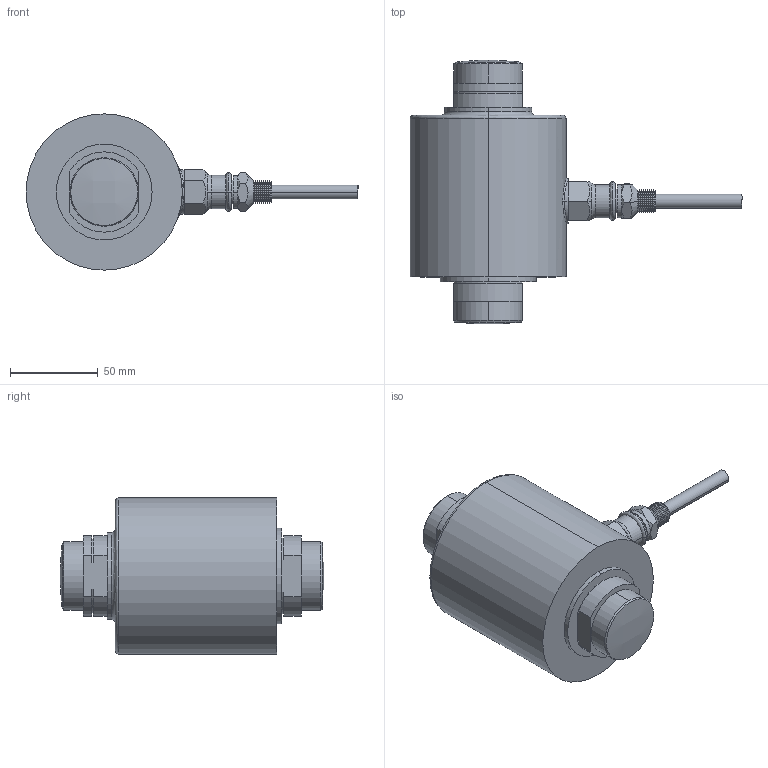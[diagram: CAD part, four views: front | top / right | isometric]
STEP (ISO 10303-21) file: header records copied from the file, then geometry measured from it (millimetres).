
FILE_DESCRIPTION (( 'STEP AP203' ), '1' );
FILE_NAME ('Load_Sensor_HIRCH03_88KLB.STEP', '2022-06-01T19:56:57', ( '' ), ( '' ), 'SwSTEP 2.0', 'SolidWorks 2020', '' );
FILE_SCHEMA (( 'CONFIG_CONTROL_DESIGN' ));
Length unit declared in the file: millimetre
Products named in the file (8): Cable; Adapter Nut; Cable Adapter; Socket Set Screw Cup Point_AI_SSCUPSKT 0.5-20x0.5-HX-C; Load_Sensor_HIRCH03_88KLB; RC3-40T_1; Hardy Cable Assembly
Assembly tree (7 placements, depth 4):
  Load_Sensor_HIRCH03_88KLB
    RC3-40T_1
    Hardy Cable Assembly
      Adapter Nut
        Socket Set Screw Cup Point_AI_SSCUPSKT 0.5-20x0.5-HX-C
        Adapter Nut
      Cable
      Cable Adapter
Bounding box: 188.77 x 149.76 x 88.9 mm (x, y, z)
Volume: 665725.6 mm3; surface area: 55036.3 mm2
Topology: 5 solids, 5 shells, 177 faces, 403 edges, 241 vertices
Faces by surface type: cylinder 65, cone 56, plane 41, bspline 15
Entity records: 6973 total; most frequent: CARTESIAN_POINT 2129, DIRECTION 909, ORIENTED_EDGE 802, EDGE_CURVE 401, AXIS2_PLACEMENT_3D 368, VERTEX_POINT 241, CIRCLE 194, EDGE_LOOP 190
